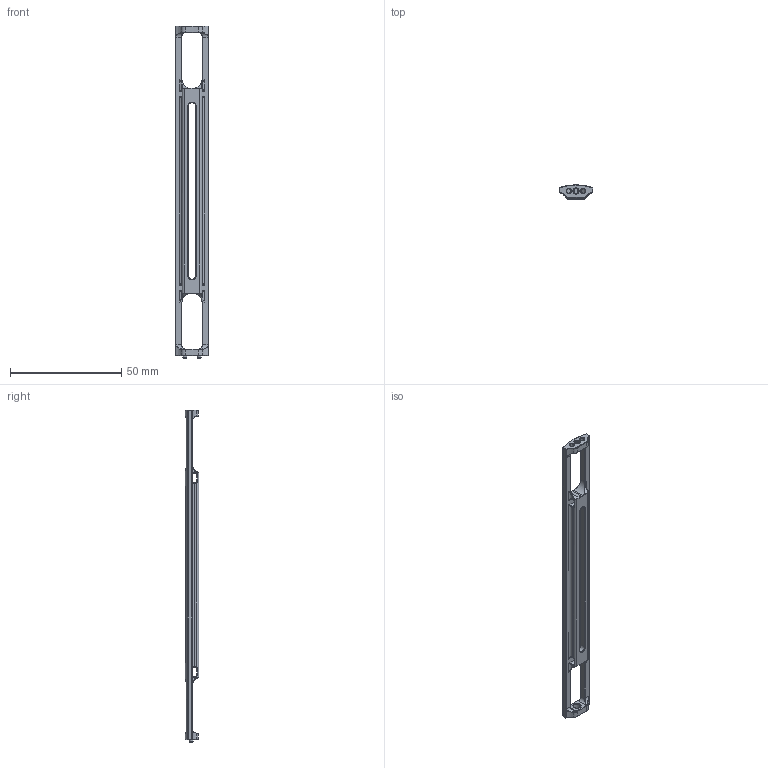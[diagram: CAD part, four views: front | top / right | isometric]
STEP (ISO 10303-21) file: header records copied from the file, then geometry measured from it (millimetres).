
FILE_DESCRIPTION (( 'STEP AP214' ), '1' );
FILE_NAME ('BR-102784-200_Rev_1.step', '2024-12-10T19:11:09', ( '' ), ( '' ), 'SwSTEP 2.0', 'SolidWorks 2024', '' );
FILE_SCHEMA (( 'AUTOMOTIVE_DESIGN' ));
Length unit declared in the file: millimetre
Products named in the file (1): BR-102784-200_Rev_1
Bounding box: 15 x 6.15 x 149 mm (x, y, z)
Volume: 4987.4 mm3; surface area: 5760.2 mm2
Topology: 1 solids, 1 shells, 259 faces, 639 edges, 362 vertices
Faces by surface type: plane 72, cylinder 65, cone 61, bspline 61
Entity records: 17883 total; most frequent: CARTESIAN_POINT 12513, ORIENTED_EDGE 1246, DIRECTION 896, EDGE_CURVE 623, VERTEX_POINT 362, AXIS2_PLACEMENT_3D 330, EDGE_LOOP 273, FACE_OUTER_BOUND 259
